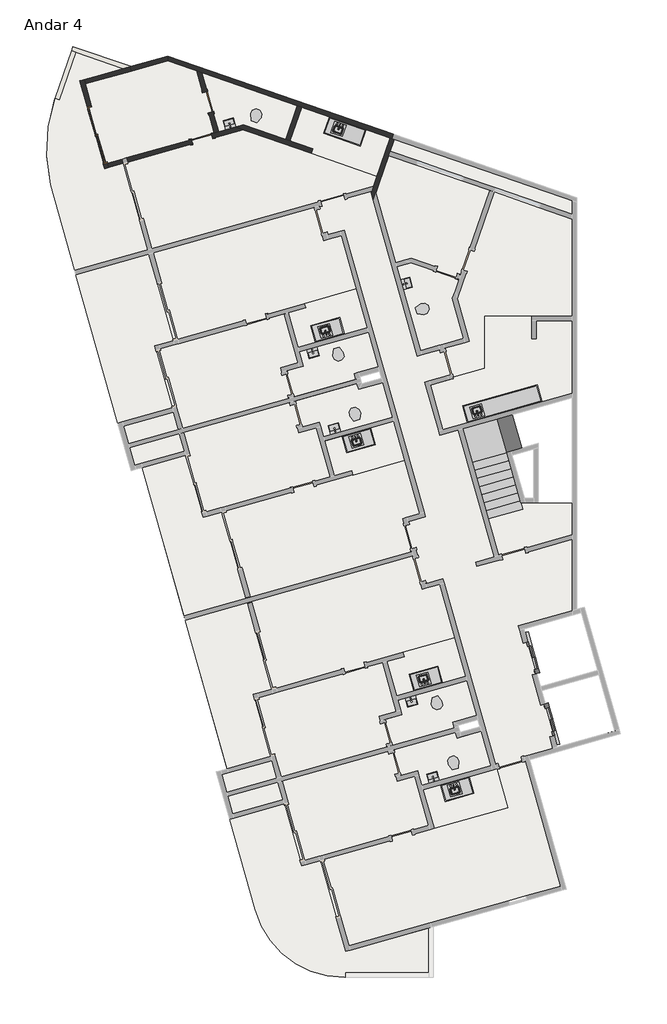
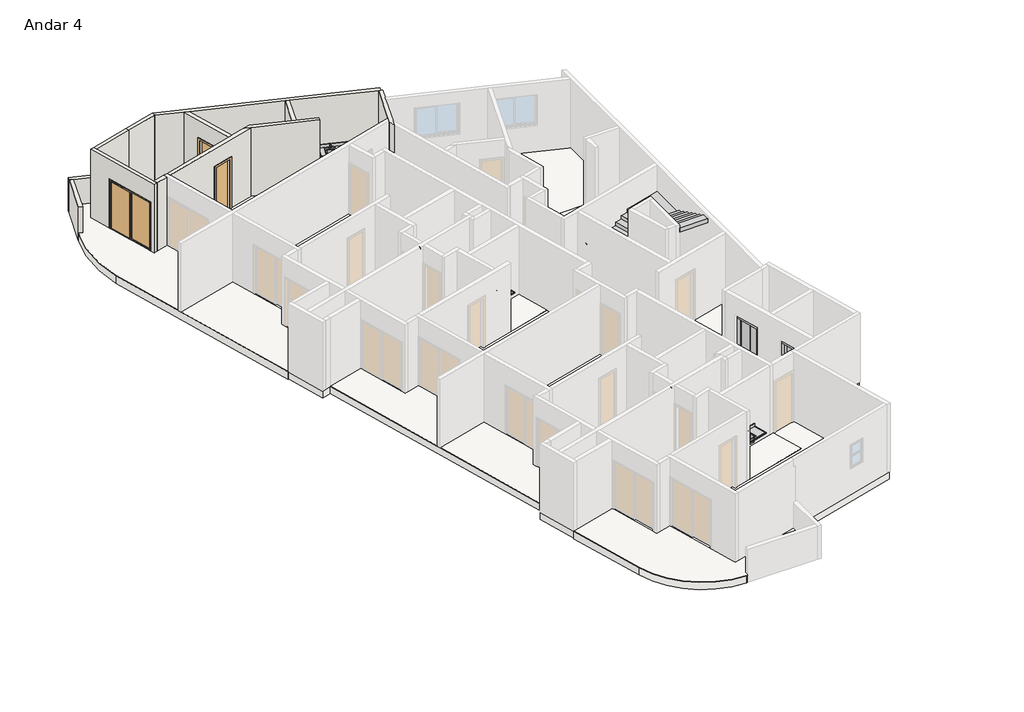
# One storey, part 3 of 3: 18 flow terminals, 18 slabs, 12 walls, 8 proxies, 3 doors, 1 stair flight.
"""IFC4 building model written with IfcOpenShell, lengths in millimetres."""

from ifc_helpers import new_model, si_unit, point, frame, frame_2d, origin, place, context, project, spatial, polyline, circle_curve, trimmed, segment, composite_curve, outline, extrude, faceted_brep, transform, mapped, element, save
from components import specialty_equipment_6c35da8b, specialty_equipment_77dfa124, rf_bancada_cozinha_rf_bancada_cozinha_340fef9f, rf_bancada_cozinha_rf_bancada_cozinha_cfb88ba1, rf_bancada_cozinha_rf_bancada_cozinha_2f873929, rf_bancada_cozinha_rf_bancada_cozinha_798ceddf, p3_70cm_ef4d15e3, p3_70cm_0a698c7c, p4_correr_200cm_eaaa0877, flow_terminal_cab7bae2, flow_terminal_3fb7dc42, flow_terminal_e42b9071, flow_terminal_c6e042c4, ap_01_creme_cr37_13e02e03, ap_01_creme_cr37_5ce6e54d

model = new_model("IFC4")

# Units and contexts
model_context = context("Model", 3, world=origin())
ifc_project = project(units=[si_unit("LENGTHUNIT", "METRE", prefix="MILLI")], contexts=[model_context])

# Site, building, storey
site = spatial("IfcSite", under=ifc_project)
building = spatial("IfcBuilding", under=site)
storey = spatial("IfcBuildingStorey", under=building, Name="Andar 4", Elevation=62350.0)

# Proxies
placement = place(None, origin())
specialty_equipment_shape = specialty_equipment_6c35da8b(model_context)
element("IfcBuildingElementProxy", 1, Name="Porta do elevador : Porta do elevador", ObjectType="Porta do elevador : Porta do elevador", at=placement, inside=storey, context=model_context, shape_type="MappedRepresentation", body=[
    mapped(specialty_equipment_shape, transform((-76594.4337486, 15747.4543727, 62350.0), x_axis=(0.27176796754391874, -0.9623628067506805, 0.0), y_axis=(0.9623628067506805, 0.27176796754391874, 0.0), z_axis=(0.0, 0.0, 1.0))),
])
specialty_equipment_2_shape = specialty_equipment_77dfa124(model_context)
element("IfcBuildingElementProxy", 2, Name="Porta do elevador : Porta do elevador", ObjectType="Porta do elevador : Porta do elevador", at=placement, inside=storey, context=model_context, shape_type="MappedRepresentation", body=[
    mapped(specialty_equipment_2_shape, transform((-75942.1906265, 13437.7836365, 62350.0), x_axis=(-0.27176796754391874, 0.9623628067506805, 0.0), y_axis=(-0.9623628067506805, -0.27176796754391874, 0.0), z_axis=(0.0, 0.0, 1.0))),
])
rf_bancada_cozinha_rf_bancada_cozinha_shape = rf_bancada_cozinha_rf_bancada_cozinha_340fef9f(model_context)
element("IfcBuildingElementProxy", 3, Name="RF_Bancada Cozinha : RF_Bancada Cozinha", ObjectType="RF_Bancada Cozinha : RF_Bancada Cozinha", at=placement, inside=storey, context=model_context, shape_type="MappedRepresentation", body=[
    mapped(rf_bancada_cozinha_rf_bancada_cozinha_shape, transform((-82760.548019, 26451.5820971, 63100.0), x_axis=(-0.9623628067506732, -0.27176796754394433, 0.0), y_axis=(0.27176796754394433, -0.9623628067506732, 0.0), z_axis=(0.0, 0.0, 1.0))),
])
element("IfcBuildingElementProxy", 4, Name="RF_Bancada Cozinha : RF_Bancada Cozinha", ObjectType="RF_Bancada Cozinha : RF_Bancada Cozinha", at=placement, inside=storey, context=model_context, shape_type="MappedRepresentation", body=[
    mapped(rf_bancada_cozinha_rf_bancada_cozinha_shape, transform((-79472.1556117, 14806.9921354, 63100.0), x_axis=(-0.962362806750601, -0.2717679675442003, 0.0), y_axis=(0.2717679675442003, -0.962362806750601, 0.0), z_axis=(0.0, 0.0, 1.0))),
])
rf_bancada_cozinha_rf_bancada_cozinha_2_shape = rf_bancada_cozinha_rf_bancada_cozinha_cfb88ba1(model_context)
element("IfcBuildingElementProxy", 5, Name="RF_Bancada Cozinha : RF_Bancada Cozinha", ObjectType="RF_Bancada Cozinha : RF_Bancada Cozinha", at=placement, inside=storey, context=model_context, shape_type="MappedRepresentation", body=[
    mapped(rf_bancada_cozinha_rf_bancada_cozinha_2_shape, transform((-81877.3021245, 23323.9029751, 63100.0), x_axis=(-0.9623628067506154, -0.27176796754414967, 0.0), y_axis=(0.27176796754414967, -0.9623628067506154, 0.0), z_axis=(0.0, 0.0, 1.0))),
])
element("IfcBuildingElementProxy", 6, Name="RF_Bancada Cozinha : RF_Bancada Cozinha", ObjectType="RF_Bancada Cozinha : RF_Bancada Cozinha", at=placement, inside=storey, context=model_context, shape_type="MappedRepresentation", body=[
    mapped(rf_bancada_cozinha_rf_bancada_cozinha_2_shape, transform((-78588.9097172, 11679.3130134, 63100.0), x_axis=(-0.9623628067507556, -0.27176796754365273, 0.0), y_axis=(0.27176796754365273, -0.9623628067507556, 0.0), z_axis=(0.0, 0.0, 1.0))),
])
rf_bancada_cozinha_rf_bancada_cozinha_3_shape = rf_bancada_cozinha_rf_bancada_cozinha_2f873929(model_context)
element("IfcBuildingElementProxy", 7, Name="RF_Bancada Cozinha : RF_Bancada Cozinha", ObjectType="RF_Bancada Cozinha : RF_Bancada Cozinha", at=placement, inside=storey, context=model_context, shape_type="MappedRepresentation", body=[
    mapped(rf_bancada_cozinha_rf_bancada_cozinha_3_shape, transform((-82030.0326121, 33293.9830661, 63100.0), x_axis=(-0.9449109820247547, 0.32732741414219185, 0.0), y_axis=(-0.32732741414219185, -0.9449109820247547, 0.0), z_axis=(0.0, 0.0, 1.0))),
])
rf_bancada_cozinha_rf_bancada_cozinha_4_shape = rf_bancada_cozinha_rf_bancada_cozinha_798ceddf(model_context)
element("IfcBuildingElementProxy", 8, Name="RF_Bancada Cozinha : RF_Bancada Cozinha", ObjectType="RF_Bancada Cozinha : RF_Bancada Cozinha", at=placement, inside=storey, context=model_context, shape_type="MappedRepresentation", body=[
    mapped(rf_bancada_cozinha_rf_bancada_cozinha_4_shape, transform((-76157.6622331, 24197.9763092, 63100.0), x_axis=(-0.9623628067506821, -0.27176796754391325, 0.0), y_axis=(0.27176796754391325, -0.9623628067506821, 0.0), z_axis=(0.0, 0.0, 1.0))),
])

# Doors
p3_70cm_shape = p3_70cm_ef4d15e3(model_context)
element("IfcDoor", 9, ObjectType="M_Folha única1 : P3 - 70CM", at=placement, inside=storey, context=model_context, shape_type="MappedRepresentation", body=[
    mapped(p3_70cm_shape, transform((-87513.806232, 32980.5300491, 62350.0), x_axis=(0.9623628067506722, 0.2717679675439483, 0.0), y_axis=(-0.2717679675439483, 0.9623628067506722, 0.0), z_axis=(0.0, 0.0, 1.0))),
])
p3_70cm_2_shape = p3_70cm_0a698c7c(model_context)
element("IfcDoor", 10, ObjectType="M_Folha única1 : P3 - 70CM", at=placement, inside=storey, context=model_context, shape_type="MappedRepresentation", body=[
    mapped(p3_70cm_2_shape, transform((-87314.304722, 34205.8663896, 62350.0), x_axis=(-0.2717679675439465, 0.9623628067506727, 0.0), y_axis=(-0.9623628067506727, -0.2717679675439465, 0.0), z_axis=(0.0, 0.0, 1.0))),
])
p4_correr_200cm_shape = p4_correr_200cm_eaaa0877(model_context)
element("IfcDoor", 11, ObjectType="Porta de correr dupla envidraçada sem revestimento : P4 - CORRER - 200CM", at=placement, inside=storey, context=model_context, shape_type="MappedRepresentation", body=[
    mapped(p4_correr_200cm_shape, transform((-91005.8131296, 33111.4415743, 62350.0), x_axis=(0.2717679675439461, -0.9623628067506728, 0.0), y_axis=(0.9623628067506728, 0.2717679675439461, 0.0), z_axis=(0.0, 0.0, 1.0))),
])

# Flow terminals
flow_terminal_shape = flow_terminal_cab7bae2(model_context)
element("IfcFlowTerminal", 12, ObjectType="RF_Pias : Pia da Bancada", at=placement, inside=storey, context=model_context, shape_type="MappedRepresentation", body=[
    mapped(flow_terminal_shape, transform((-83380.5102831, 26570.4992214, 62202.9), x_axis=(-0.9623628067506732, -0.27176796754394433, 0.0), y_axis=(0.27176796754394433, -0.9623628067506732, 0.0), z_axis=(0.0, 0.0, 1.0))),
])
element("IfcFlowTerminal", 13, ObjectType="RF_Pias : Pia da Bancada", at=placement, inside=storey, context=model_context, shape_type="MappedRepresentation", body=[
    mapped(flow_terminal_shape, transform((-80092.1178758, 14925.9092597, 62202.9), x_axis=(-0.962362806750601, -0.2717679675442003, 0.0), y_axis=(0.2717679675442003, -0.962362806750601, 0.0), z_axis=(0.0, 0.0, 1.0))),
])
element("IfcFlowTerminal", 14, ObjectType="RF_Pias : Pia da Bancada", at=placement, inside=storey, context=model_context, shape_type="MappedRepresentation", body=[
    mapped(flow_terminal_shape, transform((-78306.8185143, 23885.0542694, 62202.9), x_axis=(-0.9623628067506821, -0.27176796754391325, 0.0), y_axis=(0.27176796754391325, -0.9623628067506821, 0.0), z_axis=(0.0, 0.0, 1.0))),
])
flow_terminal_2_shape = flow_terminal_3fb7dc42(model_context)
element("IfcFlowTerminal", 15, ObjectType="Deca_Cuba de Apoio Retangular_L7300 : L.7300.17_Branco Gelo GE17", at=placement, inside=storey, context=model_context, shape_type="MappedRepresentation", body=[
    mapped(flow_terminal_2_shape, transform((-83090.0822283, 23308.7374016, 63100.0), x_axis=(-0.9623628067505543, -0.2717679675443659, 0.0), y_axis=(0.2717679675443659, -0.9623628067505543, 0.0), z_axis=(0.0, 0.0, 1.0))),
])
element("IfcFlowTerminal", 16, ObjectType="Deca_Cuba de Apoio Retangular_L7300 : L.7300.17_Branco Gelo GE17", at=placement, inside=storey, context=model_context, shape_type="MappedRepresentation", body=[
    mapped(flow_terminal_2_shape, transform((-79801.689821, 11664.1474399, 63100.0), x_axis=(-0.9623628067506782, -0.2717679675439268, 0.0), y_axis=(0.2717679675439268, -0.9623628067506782, 0.0), z_axis=(0.0, 0.0, 1.0))),
])
element("IfcFlowTerminal", 17, ObjectType="Deca_Cuba de Apoio Retangular_L7300 : L.7300.17_Branco Gelo GE17", at=placement, inside=storey, context=model_context, shape_type="MappedRepresentation", body=[
    mapped(flow_terminal_2_shape, transform((-80677.0991462, 28154.8020678, 63100.0), x_axis=(-0.2717679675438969, 0.9623628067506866, 0.0), y_axis=(-0.9623628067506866, -0.2717679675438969, 0.0), z_axis=(0.0, 0.0, 1.0))),
])
element("IfcFlowTerminal", 18, ObjectType="Deca_Cuba de Apoio Retangular_L7300 : L.7300.17_Branco Gelo GE17", at=placement, inside=storey, context=model_context, shape_type="MappedRepresentation", body=[
    mapped(flow_terminal_2_shape, transform((-86597.4204814, 33488.7004496, 63100.0), x_axis=(-0.9623628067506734, -0.27176796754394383, 0.0), y_axis=(0.27176796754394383, -0.9623628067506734, 0.0), z_axis=(0.0, 0.0, 1.0))),
])
flow_terminal_3_shape = flow_terminal_e42b9071(model_context)
element("IfcFlowTerminal", 19, ObjectType="Deca_Cuba de Apoio Retangular_L7300 : L.7300.17_Branco Gelo GE17", at=placement, inside=storey, context=model_context, shape_type="MappedRepresentation", body=[
    mapped(flow_terminal_3_shape, transform((-83802.1143033, 25830.1279553, 63100.0), x_axis=(-0.9623628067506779, -0.2717679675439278, 0.0), y_axis=(0.2717679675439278, -0.9623628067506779, 0.0), z_axis=(0.0, 0.0, 1.0))),
])
element("IfcFlowTerminal", 20, ObjectType="Deca_Cuba de Apoio Retangular_L7300 : L.7300.17_Branco Gelo GE17", at=placement, inside=storey, context=model_context, shape_type="MappedRepresentation", body=[
    mapped(flow_terminal_3_shape, transform((-80513.721896, 14185.5379936, 63100.0), x_axis=(-0.962362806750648, -0.27176796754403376, 0.0), y_axis=(0.27176796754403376, -0.962362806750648, 0.0), z_axis=(0.0, 0.0, 1.0))),
])
flow_terminal_4_shape = flow_terminal_c6e042c4(model_context)
element("IfcFlowTerminal", 21, ObjectType="RF_Pias : Pia da Bancada", at=placement, inside=storey, context=model_context, shape_type="MappedRepresentation", body=[
    mapped(flow_terminal_4_shape, transform((-82343.483233, 22898.2626745, 62202.9), x_axis=(-0.9623628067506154, -0.27176796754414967, 0.0), y_axis=(0.27176796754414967, -0.9623628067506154, 0.0), z_axis=(0.0, 0.0, 1.0))),
])
element("IfcFlowTerminal", 22, ObjectType="RF_Pias : Pia da Bancada", at=placement, inside=storey, context=model_context, shape_type="MappedRepresentation", body=[
    mapped(flow_terminal_4_shape, transform((-79055.0908257, 11253.6727129, 62202.9), x_axis=(-0.9623628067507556, -0.27176796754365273, 0.0), y_axis=(0.27176796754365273, -0.9623628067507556, 0.0), z_axis=(0.0, 0.0, 1.0))),
])
element("IfcFlowTerminal", 23, ObjectType="RF_Pias : Pia da Bancada", at=placement, inside=storey, context=model_context, shape_type="MappedRepresentation", body=[
    mapped(flow_terminal_4_shape, transform((-82939.3392028, 33309.5545572, 62202.9), x_axis=(-0.9449109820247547, 0.32732741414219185, 0.0), y_axis=(-0.32732741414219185, -0.9449109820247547, 0.0), z_axis=(0.0, 0.0, 1.0))),
])
ap_01_creme_cr37_shape = ap_01_creme_cr37_13e02e03(model_context)
element("IfcFlowTerminal", 24, ObjectType="Deca_Shared_Assento_P.900 : AP.01_Creme CR37", at=placement, inside=storey, context=model_context, shape_type="MappedRepresentation", body=[
    mapped(ap_01_creme_cr37_shape, transform((-83017.5301151, 25983.4740486, 62737.8723674), x_axis=(0.9623628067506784, 0.2717679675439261, 0.0), y_axis=(0.0, 0.0, 1.0), z_axis=(0.2717679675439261, -0.9623628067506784, 0.0))),
])
element("IfcFlowTerminal", 25, ObjectType="Deca_Shared_Assento_P.900 : AP.01_Creme CR37", at=placement, inside=storey, context=model_context, shape_type="MappedRepresentation", body=[
    mapped(ap_01_creme_cr37_shape, transform((-79729.1377078, 14338.8840869, 62737.8723674), x_axis=(0.962362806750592, 0.2717679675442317, 0.0), y_axis=(0.0, 0.0, 1.0), z_axis=(0.2717679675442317, -0.962362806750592, 0.0))),
])
element("IfcFlowTerminal", 26, ObjectType="Deca_Shared_Assento_P.900 : AP.01_Creme CR37", at=placement, inside=storey, context=model_context, shape_type="MappedRepresentation", body=[
    mapped(ap_01_creme_cr37_shape, transform((-80349.5164684, 27236.3600819, 62737.8723674), x_axis=(-0.271767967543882, 0.9623628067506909, 0.0), y_axis=(0.0, 0.0, 1.0), z_axis=(0.9623628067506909, 0.271767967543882, 0.0))),
])
element("IfcFlowTerminal", 27, ObjectType="Deca_Shared_Assento_P.900 : AP.01_Creme CR37", at=placement, inside=storey, context=model_context, shape_type="MappedRepresentation", body=[
    mapped(ap_01_creme_cr37_shape, transform((-85777.8760768, 33566.4131555, 62737.8723674), x_axis=(-0.9449109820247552, 0.3273274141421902, 0.0), y_axis=(0.0, 0.0, 1.0000000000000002), z_axis=(0.3273274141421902, 0.9449109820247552, 0.0))),
])
ap_01_creme_cr37_2_shape = ap_01_creme_cr37_5ce6e54d(model_context)
element("IfcFlowTerminal", 28, ObjectType="Deca_Shared_Assento_P.900 : AP.01_Creme CR37", at=placement, inside=storey, context=model_context, shape_type="MappedRepresentation", body=[
    mapped(ap_01_creme_cr37_2_shape, transform((-82341.1813229, 23588.4422577, 62737.8723674), x_axis=(0.9623628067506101, 0.27176796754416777, 0.0), y_axis=(0.0, 0.0, -1.0), z_axis=(-0.27176796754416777, 0.9623628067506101, 0.0))),
])
element("IfcFlowTerminal", 29, ObjectType="Deca_Shared_Assento_P.900 : AP.01_Creme CR37", at=placement, inside=storey, context=model_context, shape_type="MappedRepresentation", body=[
    mapped(ap_01_creme_cr37_2_shape, transform((-79052.7889156, 11943.852296, 62737.8723674), x_axis=(0.9623628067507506, 0.2717679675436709, 0.0), y_axis=(0.0, 0.0, -1.0000000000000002), z_axis=(-0.2717679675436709, 0.9623628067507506, 0.0))),
])

# Slabs
element("IfcSlab", 30, ObjectType="TZ_Piso de Áreas Molhadas", at=placement, inside=storey, context=model_context, shape_type="SweptSolid", body=[
    extrude(outline(composite_curve([segment(polyline([(-90765.4571774, 31984.341749), (-90143.7425806, 32159.9118263), (-89328.438678, 29272.823406), (-91766.0080564, 28584.4621444), (-92573.2320087, 31442.9384962)]), True, "CONTINUOUS"), segment(trimmed(circle_curve(frame_2d((-87414.5556743, 32622.5665107)), 5291.829908), [point((-92573.2320087, 31442.9384962))], [point((-92422.0860726, 34333.7366032))], False, "CARTESIAN"), True, "CONTINUOUS"), segment(polyline([(-92422.0860726, 34333.7366032), (-92280.2794148, 34284.6132387), (-91729.7010481, 35873.9929322), (-90151.0501028, 35327.1311202), (-91594.3494784, 34919.5483093), (-90765.4571774, 31984.341749)]), True, "CONTINUOUS")], self_intersect=False)), frame((0.0, 0.0, 62350.0), z_axis=(0.0, 0.0, 1.0), x_axis=(1.0, 0.0, 0.0)), (0.0, 0.0, 1.0), 20.0),
])
element("IfcSlab", 31, ObjectType="TZ_Piso de Áreas Molhadas", at=placement, inside=storey, context=model_context, shape_type="SweptSolid", body=[
    extrude(outline(polyline([(-88472.3695802, 26241.3805647), (-89094.084177, 26065.8104874), (-88509.7830468, 23996.7304529), (-90325.6378284, 23483.9392686), (-91725.2428613, 28440.1077234), (-89287.6734828, 29128.468985), (-88472.3695802, 26241.3805647)])), frame((0.0, 0.0, 62350.0), z_axis=(0.0, 0.0, 1.0), x_axis=(1.0, 0.0, 0.0)), (0.0, 0.0, 1.0), 20.0),
])
element("IfcSlab", 32, ObjectType="TZ_Piso de Áreas Molhadas", at=placement, inside=storey, context=model_context, shape_type="SweptSolid", body=[
    extrude(outline(polyline([(-86855.3501733, 20515.3218645), (-86040.0462707, 17628.2334443), (-88109.1263052, 17043.9323141), (-89508.731338, 22000.1007688), (-88061.3659003, 22408.8318218), (-87477.0647701, 20339.7517872), (-86855.3501733, 20515.3218645)])), frame((0.0, 0.0, 62350.0), z_axis=(0.0, 0.0, 1.0), x_axis=(1.0, 0.0, 0.0)), (0.0, 0.0, 1.0), 20.0),
])
element("IfcSlab", 33, ObjectType="TZ_Piso de Áreas Molhadas", at=placement, inside=storey, context=model_context, shape_type="SweptSolid", body=[
    extrude(outline(polyline([(-78926.5637691, 28284.9851582), (-79146.9727346, 27648.7205404), (-78771.1333302, 26317.8283554), (-80214.6775403, 25910.176404), (-81004.3851492, 28706.6252933), (-80530.2499593, 28840.5194505), (-78926.5637691, 28284.9851582)])), frame((0.0, 0.0, 62350.0), z_axis=(0.0, 0.0, 1.0), x_axis=(1.0, 0.0, 0.0)), (0.0, 0.0, 1.0), 20.0),
])
element("IfcSlab", 34, ObjectType="TZ_Piso de Áreas Molhadas", at=placement, inside=storey, context=model_context, shape_type="SweptSolid", body=[
    extrude(outline(polyline([(-78070.9150345, 27060.8243598), (-76493.6479314, 27060.8243598), (-76493.6479314, 26310.8243598), (-76343.6479314, 26310.8243598), (-76343.6479314, 26910.8243598), (-75147.8282189, 26910.8243598), (-75147.8282189, 24483.4871675), (-79467.3156296, 23263.6786855), (-79888.5559793, 24755.3410359), (-79127.7601479, 24970.1871785), (-79141.3485461, 25018.3053183), (-78070.9150345, 25320.5920836), (-78070.9150345, 27060.8243598)])), frame((0.0, 0.0, 62350.0), z_axis=(0.0, 0.0, 1.0), x_axis=(1.0, 0.0, 0.0)), (0.0, 0.0, 1.0), 20.0),
])
element("IfcSlab", 35, ObjectType="TZ_Piso de Áreas Molhadas", at=placement, inside=storey, context=model_context, shape_type="SweptSolid", body=[
    extrude(outline(polyline([(-84719.4810559, 32955.6762822), (-86137.8721095, 33447.0223292), (-86956.7711455, 33215.7680402), (-87515.4733556, 35194.1992432), (-84326.6881589, 34089.5694606), (-84719.4810559, 32955.6762822)])), frame((0.0, 0.0, 62350.0), z_axis=(0.0, 0.0, 1.0), x_axis=(1.0, 0.0, 0.0)), (0.0, 0.0, 1.0), 20.0),
])
element("IfcSlab", 36, ObjectType="TZ_Piso de Áreas Molhadas", at=placement, inside=storey, context=model_context, shape_type="SweptSolid", body=[
    extrude(outline(polyline([(-84577.7444086, 32906.57717), (-84184.9515116, 34040.4703485), (-81226.8582774, 33015.7547641), (-81668.7502865, 31740.1249383), (-83870.9147351, 32502.9785914), (-83821.815623, 32644.7152387), (-84577.7444086, 32906.57717)])), frame((0.0, 0.0, 62350.0), z_axis=(0.0, 0.0, 1.0), x_axis=(1.0, 0.0, 0.0)), (0.0, 0.0, 1.0), 20.0),
])
element("IfcSlab", 37, ObjectType="TZ_Piso de Áreas Molhadas", at=placement, inside=storey, context=model_context, shape_type="SweptSolid", body=[
    extrude(outline(polyline([(-81949.8925784, 26524.6420501), (-81623.7710174, 25369.806682), (-82432.1557751, 25141.5215893), (-82377.8021816, 24949.0490279), (-84456.5058441, 24362.030218), (-84701.0970149, 25228.1567441), (-84123.6793309, 25391.2175246), (-84259.5633146, 25872.398928), (-81949.8925784, 26524.6420501)])), frame((0.0, 0.0, 62350.0), z_axis=(0.0, 0.0, 1.0), x_axis=(1.0, 0.0, 0.0)), (0.0, 0.0, 1.0), 20.0),
])
element("IfcSlab", 38, ObjectType="TZ_Piso de Áreas Molhadas", at=placement, inside=storey, context=model_context, shape_type="SweptSolid", body=[
    extrude(outline(polyline([(-84089.7975819, 27479.0039186), (-82357.5445298, 27968.1862602), (-81990.6577736, 26668.9964711), (-84300.3285098, 26016.753349), (-84626.4500708, 27171.5887171), (-84049.0323868, 27334.6494976), (-84089.7975819, 27479.0039186)])), frame((0.0, 0.0, 62350.0), z_axis=(0.0, 0.0, 1.0), x_axis=(1.0, 0.0, 0.0)), (0.0, 0.0, 1.0), 20.0),
])
element("IfcSlab", 39, ObjectType="TZ_Piso de Áreas Molhadas", at=placement, inside=storey, context=model_context, shape_type="SweptSolid", body=[
    extrude(outline(polyline([(-84171.1494782, 23351.5492709), (-84415.740649, 24217.675797), (-82337.0369864, 24804.6946069), (-82282.6833929, 24612.2220455), (-81474.2986352, 24840.5071383), (-81148.1770742, 23685.6717702), (-83457.8478104, 23033.4286481), (-83593.7317942, 23514.6100514), (-84171.1494782, 23351.5492709)])), frame((0.0, 0.0, 62350.0), z_axis=(0.0, 0.0, 1.0), x_axis=(1.0, 0.0, 0.0)), (0.0, 0.0, 1.0), 20.0),
])
element("IfcSlab", 40, ObjectType="TZ_Piso de Áreas Molhadas", at=placement, inside=storey, context=model_context, shape_type="SweptSolid", body=[
    extrude(outline(composite_curve([segment(polyline([(-79945.4990038, 5119.4122055), (-82713.5540687, 5119.4122055), (-82713.5540687, 4969.4122055), (-82751.3896972, 4969.4122055)]), True, "CONTINUOUS"), segment(trimmed(circle_curve(frame_2d((-82751.3896972, 8069.4122055)), 3100.0), [point((-82751.3896972, 4969.4122055))], [point((-85734.7143981, 7226.9315061))], False, "CARTESIAN"), True, "CONTINUOUS"), segment(polyline([(-85734.7143981, 7226.9315061), (-86588.8282733, 10251.4506708), (-84772.9735093, 10764.2419177), (-84188.6722855, 8695.1618243), (-83566.957766, 8870.7319029), (-82710.8885369, 5839.2889958), (-79945.4990038, 6620.2256515), (-79945.4990038, 5119.4122055)]), True, "CONTINUOUS")], self_intersect=False)), frame((0.0, 0.0, 62350.0), z_axis=(0.0, 0.0, 1.0), x_axis=(1.0, 0.0, 0.0)), (0.0, 0.0, 1.0), 20.0),
])
element("IfcSlab", 41, ObjectType="TZ_Piso de Áreas Molhadas", at=placement, inside=storey, context=model_context, shape_type="SweptSolid", body=[
    extrude(outline(polyline([(-78185.906228, 13195.9171766), (-77859.7846669, 12041.0818085), (-80169.4554031, 11388.8386864), (-80305.3393869, 11870.0200898), (-80882.7570709, 11706.9593092), (-81127.3482417, 12573.0858353), (-79048.6445791, 13160.1046452), (-78994.2909856, 12967.6320839), (-78185.906228, 13195.9171766)])), frame((0.0, 0.0, 62350.0), z_axis=(0.0, 0.0, 1.0), x_axis=(1.0, 0.0, 0.0)), (0.0, 0.0, 1.0), 20.0),
])
element("IfcSlab", 42, ObjectType="TZ_Piso de Áreas Molhadas", at=placement, inside=storey, context=model_context, shape_type="SweptSolid", body=[
    extrude(outline(polyline([(-77307.7782946, 10638.3027935), (-79761.8034518, 9945.2944763), (-80128.690208, 11244.4842654), (-77674.6650508, 11937.4925826), (-77307.7782946, 10638.3027935)])), frame((0.0, 0.0, 62350.0), z_axis=(0.0, 0.0, 1.0), x_axis=(1.0, 0.0, 0.0)), (0.0, 0.0, 1.0), 20.0),
])
element("IfcSlab", 43, ObjectType="TZ_Piso de Áreas Molhadas", at=placement, inside=storey, context=model_context, shape_type="SweptSolid", body=[
    extrude(outline(polyline([(-81107.9410005, 23543.1910314), (-80740.5251229, 22242.1275601), (-82472.778175, 21752.9452185), (-82513.5433702, 21897.2996395), (-83090.9610542, 21734.238859), (-83418.0192411, 22888.8089065), (-81107.9410005, 23543.1910314)])), frame((0.0, 0.0, 62350.0), z_axis=(0.0, 0.0, 1.0), x_axis=(1.0, 0.0, 0.0)), (0.0, 0.0, 1.0), 20.0),
])
element("IfcSlab", 44, ObjectType="TZ_Piso de Áreas Molhadas", at=placement, inside=storey, context=model_context, shape_type="SweptSolid", body=[
    extrude(outline(polyline([(-85183.9771729, 14596.790603), (-85805.6917697, 14421.2205257), (-85221.3906395, 12352.1404912), (-86668.7560772, 11943.4094383), (-88068.36111, 16899.5778931), (-85999.2810755, 17483.8790233), (-85183.9771729, 14596.790603)])), frame((0.0, 0.0, 62350.0), z_axis=(0.0, 0.0, 1.0), x_axis=(1.0, 0.0, 0.0)), (0.0, 0.0, 1.0), 20.0),
])
element("IfcSlab", 45, ObjectType="TZ_Piso de Áreas Molhadas", at=placement, inside=storey, context=model_context, shape_type="SweptSolid", body=[
    extrude(outline(polyline([(-81412.7046076, 13583.5667824), (-80835.2869236, 13746.6275629), (-80971.1709074, 14227.8089663), (-78661.5001712, 14880.0520884), (-78335.3786101, 13725.2167203), (-79143.7633678, 13496.9316276), (-79089.4097743, 13304.4590662), (-81168.1134368, 12717.4402563), (-81412.7046076, 13583.5667824)])), frame((0.0, 0.0, 62350.0), z_axis=(0.0, 0.0, 1.0), x_axis=(1.0, 0.0, 0.0)), (0.0, 0.0, 1.0), 20.0),
])
element("IfcSlab", 46, ObjectType="TZ_Piso de Áreas Molhadas", at=placement, inside=storey, context=model_context, shape_type="SweptSolid", body=[
    extrude(outline(polyline([(-78701.7362448, 15022.5328272), (-81012.8731576, 14371.8995868), (-81338.0576635, 15526.9987554), (-80760.6399795, 15690.059536), (-80801.4051746, 15834.413957), (-79069.1521225, 16323.5962985), (-78701.7362448, 15022.5328272)])), frame((0.0, 0.0, 62350.0), z_axis=(0.0, 0.0, 1.0), x_axis=(1.0, 0.0, 0.0)), (0.0, 0.0, 1.0), 20.0),
])
element("IfcSlab", 47, ObjectType="TZ_Laje 30cm", at=placement, inside=storey, context=model_context, shape_type="SweptSolid", body=[
    extrude(outline(composite_curve([segment(polyline([(-82713.5540687, 4969.4122055), (-82751.3896972, 4969.4122055)]), True, "CONTINUOUS"), segment(trimmed(circle_curve(frame_2d((-82751.3896972, 8069.4122055)), 3100.0), [point((-82751.3896972, 4969.4122055))], [point((-85734.7143981, 7226.9315061))], False, "CARTESIAN"), True, "CONTINUOUS"), segment(polyline([(-85734.7143981, 7226.9315061), (-86588.8282747, 10251.4506758), (-86574.3928326, 10255.5271953), (-87018.7334595, 11828.9903844), (-86664.6795577, 11928.9739962), (-89512.8078575, 22014.5362109), (-89866.8617594, 21914.5525991), (-90311.2023863, 23488.0157882), (-90325.6378284, 23483.9392686), (-92573.2320087, 31442.9384962)]), True, "CONTINUOUS"), segment(trimmed(circle_curve(frame_2d((-87414.5556743, 32622.5665107)), 5291.829908), [point((-92573.2320087, 31442.9384962))], [point((-92426.4466323, 34320.9224218))], False, "CARTESIAN"), True, "CONTINUOUS"), segment(polyline([(-92426.4466323, 34320.9224218), (-92422.0160621, 34333.7123509), (-92403.1178425, 34327.1658026), (-91809.986912, 36039.3839237), (-89899.2062586, 35377.468778), (-88658.6666899, 35727.7929124), (-75017.8282189, 31002.4584964), (-75017.8282189, 17238.3098681), (-74750.7083414, 17313.7436086), (-73565.8000029, 13117.8417711), (-76592.4310301, 12263.1315132), (-75369.6745845, 7933.2050117), (-79815.4990038, 6677.7193903), (-79815.4990038, 4989.4122055), (-82713.5540687, 4989.4122055), (-82713.5540687, 4969.4122055)]), True, "CONTINUOUS")], self_intersect=False), holes=[polyline([(-81583.0058223, 25225.452261), (-82247.0361589, 25037.9323634), (-82179.094167, 24797.3416617), (-81515.0638304, 24984.8615593), (-81583.0058223, 25225.452261)]), polyline([(-78294.613415, 13580.8622993), (-78958.6437516, 13393.3424017), (-78890.7017597, 13152.7517), (-78226.6714231, 13340.2715976), (-78294.613415, 13580.8622993)]), polyline([(-74840.4856705, 17153.3066079), (-76760.3994699, 16611.1295126), (-76221.8794944, 14704.1660107), (-75646.150803, 12665.442005), (-73726.2370035, 13207.6191002), (-74270.7319215, 15135.7405865), (-74840.4856705, 17153.3066079)]), polyline([(-77952.9130698, 20291.1915783), (-76801.2963825, 20616.4041949), (-76858.5413412, 20819.1154254), (-75147.8282189, 20819.1154254), (-75147.8282189, 24343.0530162), (-78807.9060206, 23309.4595541), (-77952.9130698, 20291.1915783)])]), frame((0.0, 0.0, 62050.0), z_axis=(0.0, 0.0, 1.0), x_axis=(1.0, 0.0, 0.0)), (0.0, 0.0, 1.0), 300.0),
])

# Stair flight
element("IfcStairFlight", 48, ObjectType="Profundidade de 150mm", at=placement, inside=storey, context=model_context, shape_type="Brep", body=[
    faceted_brep([(-78029.0944782, 20560.1246789, 62488.0952381), (-77952.7808761, 20290.7249124, 62488.0952381), (-76802.2714069, 20616.6328483, 62488.0952381), (-76878.3664628, 20886.0945229, 62488.0952381), (-78029.0944782, 20560.1246789, 62350.0), (-77952.7808761, 20290.7249124, 62350.0), (-76802.2714069, 20616.6328483, 62350.0), (-76878.3664628, 20886.0945229, 62350.0), (-78105.4080802, 20829.5244453, 62626.1904762), (-78029.0944782, 20560.1246789, 62626.1904762), (-76878.3664628, 20886.0945229, 62626.1904762), (-76954.4615188, 21155.5561975, 62626.1904762), (-78105.4080802, 20829.5244453, 62458.939228), (-78045.2065482, 20617.0029783, 62350.0), (-76894.4323913, 20942.985893, 62350.0), (-76954.4615188, 21155.5561975, 62458.939228), (-78181.7216823, 21098.9242117, 62764.2857143), (-78105.4080802, 20829.5244453, 62764.2857143), (-76954.4615188, 21155.5561975, 62764.2857143), (-77030.5565747, 21425.017872, 62764.2857143), (-78181.7216823, 21098.9242117, 62597.0344661), (-77030.5565747, 21425.017872, 62597.0344661), (-78258.0352843, 21368.3239781, 62902.3809524), (-78181.7216823, 21098.9242117, 62902.3809524), (-77030.5565747, 21425.017872, 62902.3809524), (-77106.6516307, 21694.4795466, 62902.3809524), (-78258.0352843, 21368.3239781, 62735.1297042), (-77106.6516307, 21694.4795466, 62735.1297042), (-78334.3488864, 21637.7237445, 63040.4761905), (-78258.0352843, 21368.3239781, 63040.4761905), (-77106.6516307, 21694.4795466, 63040.4761905), (-77182.7466866, 21963.9412211, 63040.4761905), (-78334.3488864, 21637.7237445, 62873.2249423), (-77182.7466866, 21963.9412211, 62873.2249423), (-78410.6624885, 21907.1235109, 63178.5714286), (-78334.3488864, 21637.7237445, 63178.5714286), (-77182.7466866, 21963.9412211, 63178.5714286), (-77258.8417426, 22233.4028957, 63178.5714286), (-78410.6624885, 21907.1235109, 63011.3201804), (-77258.8417426, 22233.4028957, 63011.3201804), (-78486.9760905, 22176.5232773, 63316.6666667), (-78410.6624885, 21907.1235109, 63316.6666667), (-77258.8417426, 22233.4028957, 63316.6666667), (-77334.9367985, 22502.8645702, 63316.6666667), (-78486.9760905, 22176.5232773, 63149.4154185), (-77334.9367985, 22502.8645702, 63149.4154185), (-77650.6473278, 23620.8332322, 63454.7619048), (-78803.8582924, 23295.1703972, 63454.7619048), (-78572.8230038, 22479.5772253, 63454.7619048), (-78486.9760905, 22176.5232773, 63454.7619048), (-77334.9367985, 22502.8645702, 63454.7619048), (-77337.6544782, 22512.4881983, 63454.7619048), (-77650.6473278, 23620.8332322, 63304.7619048), (-78803.8582924, 23295.1703972, 63304.7619048), (-78572.8230038, 22479.5772253, 63304.7619048), (-77420.5378643, 22805.9881601, 63304.7619048), (-77337.6544782, 22512.4881983, 63304.7619048), (-77650.6473278, 23620.8332322, 63592.8571429), (-77337.6544782, 22512.4881983, 63592.8571429), (-77303.5536842, 22522.118146, 63592.8571429), (-77083.6709973, 22584.2122653, 63592.8571429), (-77396.6638468, 23692.5572992, 63592.8571429), (-77616.5465338, 23630.4631799, 63592.8571429), (-77396.6638468, 23692.5572992, 63419.0904432), (-77616.5465338, 23630.4631799, 63304.7619048), (-77303.5536842, 22522.118146, 63304.7619048), (-77083.6709973, 22584.2122653, 63419.0904432), (-77127.202261, 23768.6523301, 63730.952381), (-77396.6638468, 23692.5572992, 63730.952381), (-77083.6709973, 22584.2122653, 63730.952381), (-76814.2094114, 22660.3072962, 63730.952381), (-77127.202261, 23768.6523301, 63559.1976509), (-76814.2094114, 22660.3072962, 63559.1976509), (-76857.7406751, 23844.747361, 63869.047619), (-77127.202261, 23768.6523301, 63869.047619), (-76814.2094114, 22660.3072962, 63869.047619), (-76544.7478255, 22736.4023271, 63869.047619), (-76857.7406751, 23844.747361, 63699.3048586), (-76544.7478255, 22736.4023271, 63699.3048586), (-76588.2790892, 23920.842392, 64007.1428571), (-76857.7406751, 23844.747361, 64007.1428571), (-76544.7478255, 22736.4023271, 64007.1428571), (-76275.2862396, 22812.497358, 64007.1428571), (-76588.2790892, 23920.842392, 63839.4120663), (-75975.593386, 22897.1295956, 63995.2380952), (-76275.2862396, 22812.497358, 63995.2380952), (-75147.8282189, 22779.1154254, 64145.2380952), (-75147.8282189, 24327.6207947, 64145.2380952), (-76288.5862355, 24005.4746296, 64145.2380952), (-76588.2790892, 23920.842392, 64145.2380952), (-76275.2862396, 22812.497358, 64145.2380952), (-76275.2862396, 22779.1154254, 64145.2380952), (-75147.8282189, 22779.1154254, 63995.2380952), (-75147.8282189, 24327.6207947, 63995.2380952), (-76288.5862355, 24005.4746296, 63995.2380952), (-76275.2862396, 22779.1154254, 63995.2380952), (-75147.8282189, 22779.1154254, 64283.3333333), (-76275.2862396, 22779.1154254, 64283.3333333), (-76275.2862396, 22744.1370326, 64283.3333333), (-76275.2862396, 22499.1154254, 64283.3333333), (-75147.8282189, 22499.1154254, 64283.3333333), (-75147.8282189, 22744.1370326, 64283.3333333), (-75147.8282189, 22499.1154254, 64116.0820852), (-75147.8282189, 22744.1370326, 63995.2380952), (-76275.2862396, 22744.1370326, 63995.2380952), (-76275.2862396, 22499.1154254, 64116.0820852), (-75147.8282189, 22219.1154254, 64421.4285714), (-75147.8282189, 22499.1154254, 64421.4285714), (-76275.2862396, 22499.1154254, 64421.4285714), (-76275.2862396, 22219.1154254, 64421.4285714), (-75147.8282189, 22219.1154254, 64254.1773233), (-76275.2862396, 22219.1154254, 64254.1773233), (-75147.8282189, 21939.1154254, 64559.5238095), (-75147.8282189, 22219.1154254, 64559.5238095), (-76275.2862396, 22219.1154254, 64559.5238095), (-76275.2862396, 21939.1154254, 64559.5238095), (-75147.8282189, 21939.1154254, 64392.2725614), (-76275.2862396, 21939.1154254, 64392.2725614), (-75147.8282189, 21659.1154254, 64697.6190476), (-75147.8282189, 21939.1154254, 64697.6190476), (-76275.2862396, 21939.1154254, 64697.6190476), (-76275.2862396, 21659.1154254, 64697.6190476), (-75147.8282189, 21659.1154254, 64530.3677995), (-76275.2862396, 21659.1154254, 64530.3677995), (-75147.8282189, 21379.1154254, 64835.7142857), (-75147.8282189, 21659.1154254, 64835.7142857), (-76275.2862396, 21659.1154254, 64835.7142857), (-76275.2862396, 21379.1154254, 64835.7142857), (-75147.8282189, 21379.1154254, 64668.4630376), (-76275.2862396, 21379.1154254, 64668.4630376), (-75147.8282189, 21099.1154254, 64973.8095238), (-75147.8282189, 21379.1154254, 64973.8095238), (-76275.2862396, 21379.1154254, 64973.8095238), (-76275.2862396, 21099.1154254, 64973.8095238), (-75147.8282189, 21099.1154254, 64806.5582757), (-76275.2862396, 21099.1154254, 64806.5582757), (-75147.8282189, 20819.1154254, 65111.9047619), (-75147.8282189, 21099.1154254, 65111.9047619), (-76275.2862396, 21099.1154254, 65111.9047619), (-76275.2862396, 20819.1154254, 65111.9047619), (-75147.8282189, 20819.1154254, 64944.6535138), (-76275.2862396, 20819.1154254, 64944.6535138), (-76275.2862396, 23958.3777566, 63995.2380952)], [[[0, 1, 2, 3]], [[1, 0, 4, 5]], [[2, 1, 5, 6]], [[3, 2, 6, 7]], [[8, 9, 10, 11]], [[4, 0, 9, 8, 12, 13]], [[0, 3, 10, 9]], [[3, 7, 14, 15, 11, 10]], [[16, 17, 18, 19]], [[17, 16, 20, 12, 8]], [[8, 11, 18, 17]], [[19, 18, 11, 15, 21]], [[22, 23, 24, 25]], [[23, 22, 26, 20, 16]], [[16, 19, 24, 23]], [[25, 24, 19, 21, 27]], [[28, 29, 30, 31]], [[29, 28, 32, 26, 22]], [[22, 25, 30, 29]], [[31, 30, 25, 27, 33]], [[34, 35, 36, 37]], [[35, 34, 38, 32, 28]], [[28, 31, 36, 35]], [[37, 36, 31, 33, 39]], [[40, 41, 42, 43]], [[41, 40, 44, 38, 34]], [[34, 37, 42, 41]], [[43, 42, 37, 39, 45]], [[46, 47, 48, 49, 50, 51]], [[47, 46, 52, 53]], [[40, 49, 48, 47, 53, 54, 44]], [[40, 43, 50, 49]], [[51, 50, 43, 45, 55, 56]], [[57, 58, 59, 60, 61, 62]], [[46, 57, 62, 61, 63, 64, 52]], [[46, 51, 58, 57]], [[58, 51, 56, 65, 66, 60, 59]], [[67, 68, 69, 70]], [[68, 67, 71, 63, 61]], [[61, 60, 69, 68]], [[70, 69, 60, 66, 72]], [[73, 74, 75, 76]], [[74, 73, 77, 71, 67]], [[67, 70, 75, 74]], [[76, 75, 70, 72, 78]], [[79, 80, 81, 82]], [[80, 79, 83, 77, 73]], [[73, 76, 81, 80]], [[82, 81, 76, 78, 84, 85]], [[86, 87, 88, 89, 90, 91]], [[87, 86, 92, 93]], [[79, 89, 88, 87, 93, 94, 83]], [[79, 82, 90, 89]], [[91, 90, 82, 85, 95]], [[96, 97, 98, 99, 100, 101]], [[86, 96, 101, 100, 102, 103, 92]], [[86, 91, 97, 96]], [[97, 91, 95, 104, 105, 99, 98]], [[106, 107, 108, 109]], [[107, 106, 110, 102, 100]], [[100, 99, 108, 107]], [[109, 108, 99, 105, 111]], [[112, 113, 114, 115]], [[113, 112, 116, 110, 106]], [[106, 109, 114, 113]], [[115, 114, 109, 111, 117]], [[118, 119, 120, 121]], [[119, 118, 122, 116, 112]], [[112, 115, 120, 119]], [[121, 120, 115, 117, 123]], [[124, 125, 126, 127]], [[125, 124, 128, 122, 118]], [[118, 121, 126, 125]], [[127, 126, 121, 123, 129]], [[130, 131, 132, 133]], [[131, 130, 134, 128, 124]], [[124, 127, 132, 131]], [[133, 132, 127, 129, 135]], [[136, 137, 138, 139]], [[137, 136, 140, 134, 130]], [[130, 133, 138, 137]], [[139, 138, 133, 135, 141]], [[136, 139, 141, 140]], [[5, 4, 13, 14, 7, 6]], [[54, 55, 45, 39, 33, 27, 21, 15, 14, 13, 12, 20, 26, 32, 38, 44]], [[55, 54, 53, 52, 64, 65, 56]], [[65, 64, 63, 71, 77, 83, 94, 142, 84, 78, 72, 66]], [[142, 94, 93, 92, 103, 104, 95, 85, 84]], [[104, 103, 102, 110, 116, 122, 128, 134, 140, 141, 135, 129, 123, 117, 111, 105]]]),
])

# Walls
element("IfcWall", 49, ObjectType="Básica .15 - Externa", at=placement, inside=storey, context=model_context, shape_type="Brep", body=[
    faceted_brep([(-88662.6343714, 35591.588263, 62350.0), (-87688.240739, 35254.0477389, 62350.0), (-87515.4733556, 35194.1992432, 62350.0), (-84326.6881589, 34089.5694606, 62350.0), (-84184.9515116, 34040.4703485, 62350.0), (-81226.8582774, 33015.7547641, 62350.0), (-81156.3583355, 32991.3328194, 62350.0), (-81156.3583355, 32991.3328194, 63650.0), (-81085.1216301, 32966.655652, 63650.0), (-81085.1216301, 32966.655652, 64950.0), (-81156.3583355, 32991.3328194, 64950.0), (-81156.3583355, 32991.3328194, 65250.0), (-81226.8582774, 33015.7547641, 65250.0), (-84184.9515116, 34040.4703485, 65250.0), (-84326.6881589, 34089.5694606, 65250.0), (-87515.4733556, 35194.1992432, 65250.0), (-87688.240739, 35254.0477389, 65250.0), (-88662.6343714, 35591.588263, 65250.0), (-88658.0562773, 35748.7474739, 62350.0), (-88658.0562773, 35748.7474739, 65250.0), (-81107.2592234, 33133.0694667, 65250.0), (-81107.2592234, 33133.0694667, 64950.0), (-81036.022518, 33108.3922993, 64950.0), (-81036.022518, 33108.3922993, 63650.0), (-81107.2592234, 33133.0694667, 63650.0), (-81107.2592234, 33133.0694667, 62350.0)], [[[0, 1, 2, 3, 4, 5, 6, 7, 8, 9, 10, 11, 12, 13, 14, 15, 16, 17]], [[18, 19, 20, 21, 22, 23, 24, 25]], [[6, 5, 4, 3, 2, 1, 0, 18, 25]], [[17, 16, 15, 14, 13, 12, 11, 20, 19]], [[0, 17, 19, 18]], [[7, 6, 25, 24]], [[23, 8, 7, 24]], [[11, 10, 21, 20]], [[21, 10, 9, 22]], [[9, 8, 23, 22]]]),
])
element("IfcWall", 50, ObjectType="Básica .15 -  Interna", at=placement, inside=storey, context=model_context, shape_type="Brep", body=[
    faceted_brep([(-81789.2550074, 30934.0017027, 62350.0), (-81703.3880158, 31181.8778654, 62350.0), (-81272.8781344, 32424.6503839, 62350.0), (-81223.7790223, 32566.3870312, 62350.0), (-81085.1216301, 32966.655652, 62350.0), (-81085.1216301, 32966.655652, 63650.0), (-81085.1216301, 32966.655652, 64950.0), (-81085.1216301, 32966.655652, 65250.0), (-81223.7790223, 32566.3870312, 65250.0), (-81272.8781344, 32424.6503839, 65250.0), (-81703.3880158, 31181.8778654, 65250.0), (-81789.2550074, 30934.0017027, 65250.0), (-81860.5472267, 31186.4559595, 62350.0), (-81860.5472267, 31186.4559595, 65250.0), (-81845.4155775, 31230.1371819, 65250.0), (-81785.5670817, 31402.9045654, 65250.0), (-81226.8582774, 33015.7547641, 65250.0), (-81226.8582774, 33015.7547641, 62350.0), (-81785.5670817, 31402.9045654, 62350.0), (-81845.4155775, 31230.1371819, 62350.0), (-81156.3583355, 32991.3328194, 62350.0), (-81156.3583355, 32991.3328194, 65250.0)], [[[0, 1, 2, 3, 4, 5, 6, 7, 8, 9, 10, 11]], [[12, 13, 14, 15, 16, 17, 18, 19]], [[4, 3, 2, 1, 0, 12, 19, 18, 17, 20]], [[11, 10, 9, 8, 7, 21, 16, 15, 14, 13]], [[0, 11, 13, 12]], [[4, 20, 17, 16, 21, 7, 6, 5]]]),
])
element("IfcWall", 51, ObjectType="Básica .15 -  Interna", at=placement, inside=storey, context=model_context, shape_type="Brep", body=[
    faceted_brep([(-91449.9950574, 34960.3135045, 65250.0), (-91409.2298622, 34815.9590835, 65250.0), (-90661.8679515, 32169.4613651, 65250.0), (-90621.1027564, 32025.1069441, 65250.0), (-90621.1027564, 32025.1069441, 62350.0), (-90661.8679515, 32169.4613651, 62350.0), (-90661.8679515, 32169.4613651, 64450.0), (-91205.4038866, 34094.1869786, 64450.0), (-91205.4038866, 34094.1869786, 62350.0), (-91409.2298622, 34815.9590835, 62350.0), (-91449.9950574, 34960.3135045, 62350.0), (-90765.4571774, 31984.341749, 65250.0), (-91594.3494784, 34919.5483093, 65250.0), (-91594.3494784, 34919.5483093, 62350.0), (-91349.7583076, 34053.4217835, 62350.0), (-91349.7583076, 34053.4217835, 64450.0), (-90806.2223725, 32128.69617, 64450.0), (-90806.2223725, 32128.69617, 62350.0), (-90765.4571774, 31984.341749, 62350.0)], [[[0, 1, 2, 3, 4, 5, 6, 7, 8, 9, 10]], [[11, 12, 13, 14, 15, 16, 17, 18]], [[4, 18, 17, 5]], [[13, 10, 9, 8, 14]], [[3, 2, 1, 0, 12, 11]], [[4, 3, 11, 18]], [[16, 6, 5, 17]], [[6, 16, 15, 7]], [[7, 15, 14, 8]], [[0, 10, 13, 12]]]),
])
element("IfcWall", 52, ObjectType="Básica .15 - Externa", at=placement, inside=storey, context=model_context, shape_type="Brep", body=[
    faceted_brep([(-91871.4376954, 35923.0920443, 62050.0), (-91729.7010481, 35873.9929322, 62050.0), (-90151.0501028, 35327.1311202, 62050.0), (-90151.0501028, 35327.1311202, 63450.0), (-91729.7010481, 35873.9929322, 63450.0), (-91871.4376954, 35923.0920443, 63450.0), (-91822.3385833, 36064.8286916, 62050.0), (-91822.3385833, 36064.8286916, 63450.0), (-89898.595846, 35398.4233395, 63450.0), (-89898.595846, 35398.4233395, 62050.0)], [[[0, 1, 2, 3, 4, 5]], [[6, 7, 8, 9]], [[2, 1, 0, 6, 9]], [[5, 4, 3, 8, 7]], [[3, 2, 9, 8]], [[0, 5, 7, 6]]]),
])
element("IfcWall", 53, ObjectType="Básica .15 - Externa", at=placement, inside=storey, context=model_context, shape_type="SweptSolid", body=[
    extrude(outline(polyline([(-91729.7010481, 35873.9929322), (-92280.2794148, 34284.6132387), (-92422.0160621, 34333.7123509), (-91871.4376954, 35923.0920443), (-91729.7010481, 35873.9929322)])), frame((0.0, 0.0, 62050.0), z_axis=(0.0, 0.0, 1.0), x_axis=(1.0, 0.0, 0.0)), (0.0, 0.0, 1.0), 1400.0),
])
element("IfcWall", 54, ObjectType="Básica .15 - Externa", at=placement, inside=storey, context=model_context, shape_type="SweptSolid", body=[
    extrude(outline(polyline([(-89921.2674906, 35392.0209445), (-88658.0562773, 35748.7474739), (-88662.6343714, 35591.588263), (-89880.5022955, 35247.6665235), (-89921.2674906, 35392.0209445)])), frame((0.0, 0.0, 62350.0), z_axis=(0.0, 0.0, 1.0), x_axis=(1.0, 0.0, 0.0)), (0.0, 0.0, 1.0), 2900.0),
])
element("IfcWall", 55, ObjectType="Básica .15 -  Interna", at=placement, inside=storey, context=model_context, shape_type="Brep", body=[
    faceted_brep([(-90184.5077758, 32304.2662473, 62350.0), (-90661.8679515, 32169.4613651, 62350.0), (-90661.8679515, 32169.4613651, 64450.0), (-90661.8679515, 32169.4613651, 65250.0), (-90184.5077758, 32304.2662473, 65250.0), (-90143.7425806, 32159.9118263, 62350.0), (-90143.7425806, 32159.9118263, 64450.0), (-90143.7425806, 32159.9118263, 65250.0), (-90621.1027564, 32025.1069441, 65250.0), (-90621.1027564, 32025.1069441, 62350.0)], [[[0, 1, 2, 3, 4]], [[5, 6, 7, 8, 9]], [[1, 0, 5, 9]], [[4, 3, 8, 7]], [[0, 4, 7, 6, 5]], [[3, 2, 1, 9, 8]]]),
])
element("IfcWall", 56, ObjectType="Básica .15 -  Interna", at=placement, inside=storey, context=model_context, shape_type="SweptSolid", body=[
    extrude(outline(polyline([(-91449.9950574, 34960.3135045), (-89921.2674906, 35392.0209445), (-89880.5022955, 35247.6665235), (-91409.2298622, 34815.9590835), (-91449.9950574, 34960.3135045)])), frame((0.0, 0.0, 62350.0), z_axis=(0.0, 0.0, 1.0), x_axis=(1.0, 0.0, 0.0)), (0.0, 0.0, 1.0), 2900.0),
])
element("IfcWall", 57, ObjectType="Básica .15 -  Interna", at=placement, inside=storey, context=model_context, shape_type="Brep", body=[
    faceted_brep([(-83821.815623, 32644.7152387, 62350.0), (-84577.7444086, 32906.57717, 62350.0), (-84719.4810559, 32955.6762822, 62350.0), (-86137.8721095, 33447.0223292, 62350.0), (-86137.8721095, 33447.0223292, 65250.0), (-84719.4810559, 32955.6762822, 65250.0), (-84577.7444086, 32906.57717, 65250.0), (-83821.815623, 32644.7152387, 65250.0), (-83870.9147351, 32502.9785914, 62350.0), (-83870.9147351, 32502.9785914, 65250.0), (-86142.4502035, 33289.8631183, 65250.0), (-86390.3263662, 33375.7301099, 65250.0), (-86390.3263662, 33375.7301099, 62350.0), (-86142.4502035, 33289.8631183, 62350.0)], [[[0, 1, 2, 3, 4, 5, 6, 7]], [[8, 9, 10, 11, 12, 13]], [[3, 2, 1, 0, 8, 13, 12]], [[7, 6, 5, 4, 11, 10, 9]], [[0, 7, 9, 8]], [[4, 3, 12, 11]]]),
])
element("IfcWall", 58, ObjectType="Básica .15 -  Interna", at=placement, inside=storey, context=model_context, shape_type="Brep", body=[
    faceted_brep([(-86390.3263662, 33375.7301099, 62350.0), (-86956.7711455, 33215.7680402, 62350.0), (-87101.1255666, 33175.002845, 62350.0), (-87197.3618472, 33147.8260483, 62350.0), (-87197.3618472, 33147.8260483, 64450.0), (-87871.015812, 32957.588471, 64450.0), (-87871.015812, 32957.588471, 62350.0), (-90040.1533547, 32345.0314424, 62350.0), (-90040.1533547, 32345.0314424, 65250.0), (-87101.1255666, 33175.002845, 65250.0), (-86956.7711455, 33215.7680402, 65250.0), (-86390.3263662, 33375.7301099, 65250.0), (-87156.5966521, 33003.4716273, 64450.0), (-87156.5966521, 33003.4716273, 62350.0), (-86142.4502035, 33289.8631183, 62350.0), (-86142.4502035, 33289.8631183, 65250.0), (-89999.3881596, 32200.6770214, 65250.0), (-89999.3881596, 32200.6770214, 64450.0), (-89999.3881596, 32200.6770214, 62350.0), (-87830.2506168, 32813.23405, 62350.0), (-87830.2506168, 32813.23405, 64450.0)], [[[0, 1, 2, 3, 4, 5, 6, 7, 8, 9, 10, 11]], [[12, 13, 14, 15, 16, 17, 18, 19, 20]], [[19, 18, 7, 6]], [[14, 13, 3, 2, 1, 0]], [[11, 10, 9, 8, 16, 15]], [[4, 3, 13, 12]], [[5, 4, 12, 20]], [[6, 5, 20, 19]], [[0, 11, 15, 14]], [[8, 7, 18, 17, 16]]]),
])
element("IfcWall", 59, ObjectType="Básica .15 -  Interna", at=placement, inside=storey, context=model_context, shape_type="SweptSolid", body=[
    extrude(outline(polyline([(-84184.9515116, 34040.4703485), (-84577.7444086, 32906.57717), (-84719.4810559, 32955.6762822), (-84326.6881589, 34089.5694606), (-84184.9515116, 34040.4703485)])), frame((0.0, 0.0, 62350.0), z_axis=(0.0, 0.0, 1.0), x_axis=(1.0, 0.0, 0.0)), (0.0, 0.0, 1.0), 2900.0),
])
element("IfcWall", 60, ObjectType="Básica .15 -  Interna", at=placement, inside=storey, context=model_context, shape_type="Brep", body=[
    faceted_brep([(-87337.2463001, 34563.0759696, 64450.0), (-87337.2463001, 34563.0759696, 62350.0), (-87515.4733556, 35194.1992432, 62350.0), (-87515.4733556, 35194.1992432, 65250.0), (-86956.7711455, 33215.7680402, 65250.0), (-86956.7711455, 33215.7680402, 62350.0), (-87147.0087228, 33889.4220048, 62350.0), (-87147.0087228, 33889.4220048, 64450.0), (-87688.240739, 35254.0477389, 62350.0), (-87481.6007211, 34522.3107744, 62350.0), (-87481.6007211, 34522.3107744, 64450.0), (-87291.3631438, 33848.6568097, 64450.0), (-87291.3631438, 33848.6568097, 62350.0), (-87101.1255666, 33175.002845, 62350.0), (-87101.1255666, 33175.002845, 65250.0), (-87688.240739, 35254.0477389, 65250.0)], [[[0, 1, 2, 3, 4, 5, 6, 7]], [[8, 9, 10, 11, 12, 13, 14, 15]], [[6, 5, 13, 12]], [[2, 1, 9, 8]], [[4, 3, 15, 14]], [[10, 9, 1, 0]], [[11, 10, 0, 7]], [[12, 11, 7, 6]], [[5, 4, 14, 13]], [[3, 2, 8, 15]]]),
])

save(model, "model.ifc")
